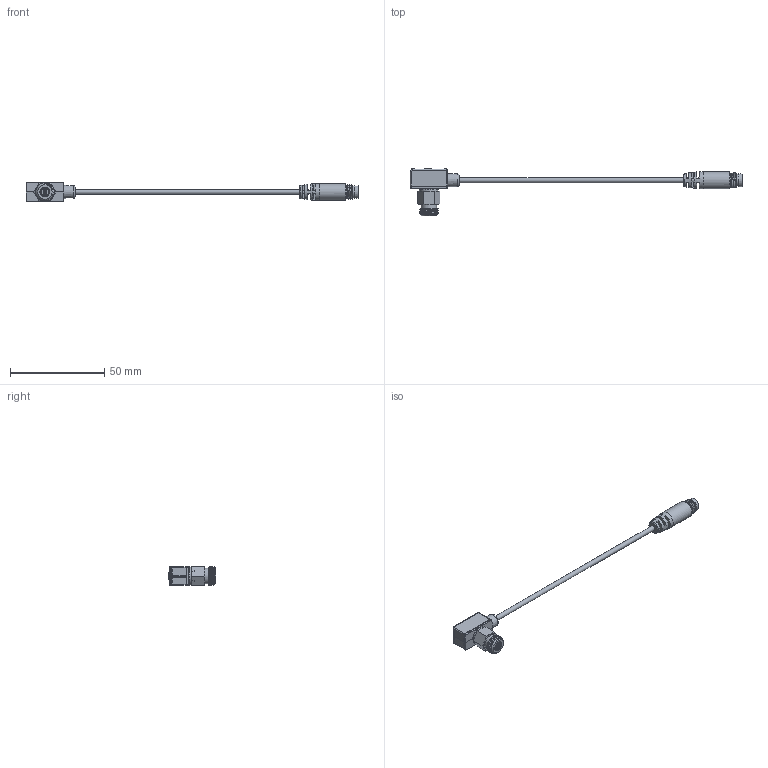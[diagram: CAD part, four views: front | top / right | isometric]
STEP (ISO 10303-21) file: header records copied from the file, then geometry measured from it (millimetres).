
FILE_DESCRIPTION(('STEP AP214'),'1');
FILE_NAME('82R-N(P)C.stp','2026-04-16T04:59:12',(' '),(' '),'Spatial InterOp 3D',' ',' ');
FILE_SCHEMA(('AUTOMOTIVE_DESIGN { 1 0 10303 214 1 1 1 1 }'));
Length unit declared in the file: millimetre
Products named in the file (3): MPS-※82R-N(P)C
Assembly tree (2 placements, depth 2):
  MPS-※82R-N(P)C
    MPS-※82R-N(P)C
    MPS-※82R-N(P)C
Bounding box: 176 x 25.35 x 10 mm (x, y, z)
Volume: 3894.6 mm3; surface area: 6145.9 mm2
Topology: 2 solids, 2 shells, 581 faces, 1608 edges, 1053 vertices
Faces by surface type: plane 371, cylinder 145, cone 27, bspline 24, sphere 10, torus 4
Full cylindrical faces by diameter (mm): 1 x5, 2.5 x1, 2.6 x1, 2.7 x2, 3.8 x1, 4.6 x1, 4.7 x1, 5 x1, 5.05 x1, 5.1 x1, 5.8 x1, 5.985 x1, 6.2 x2, 6.45 x1, 6.5 x1, 6.9 x1, 7.15 x1, 7.2 x1, 8.2 x1, 9 x2, 10 x1
Entity records: 30834 total; most frequent: CARTESIAN_POINT 11941, ORIENTED_EDGE 3040, DIRECTION 2712, EDGE_CURVE 1520, VERTEX_POINT 1021, LINE 986, VECTOR 986, AXIS2_PLACEMENT_3D 863
